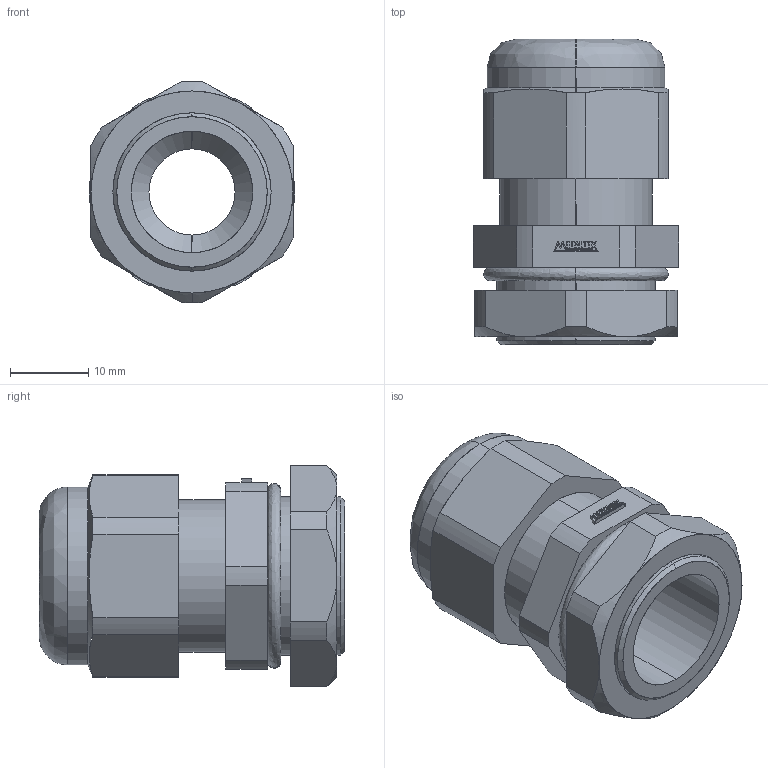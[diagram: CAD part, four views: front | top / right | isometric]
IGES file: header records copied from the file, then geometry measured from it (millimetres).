
Start section: SolidWorks IGES file using analytic representation for surfaces
Global section: file name: D:\X - Arquivos\PROEX\Empresas\P11 - METALTEX\01 - Produtos\IGES\Terceira remessa\Etapa 2\CH-PG13.5.IGS; native system: SolidWorks 2012; preprocessor: SolidWorks 2012; author: Usuario; date: 180207.123836; units: millimetre
Bounding box: 26.29 x 39 x 28.34 mm (x, y, z)
Surface area: 6181.3 mm2 (no closed solid volume)
Topology: 0 solids, 0 shells, 174 faces, 1313 edges, 1313 vertices
Faces by surface type: bspline 125, revolution 49
